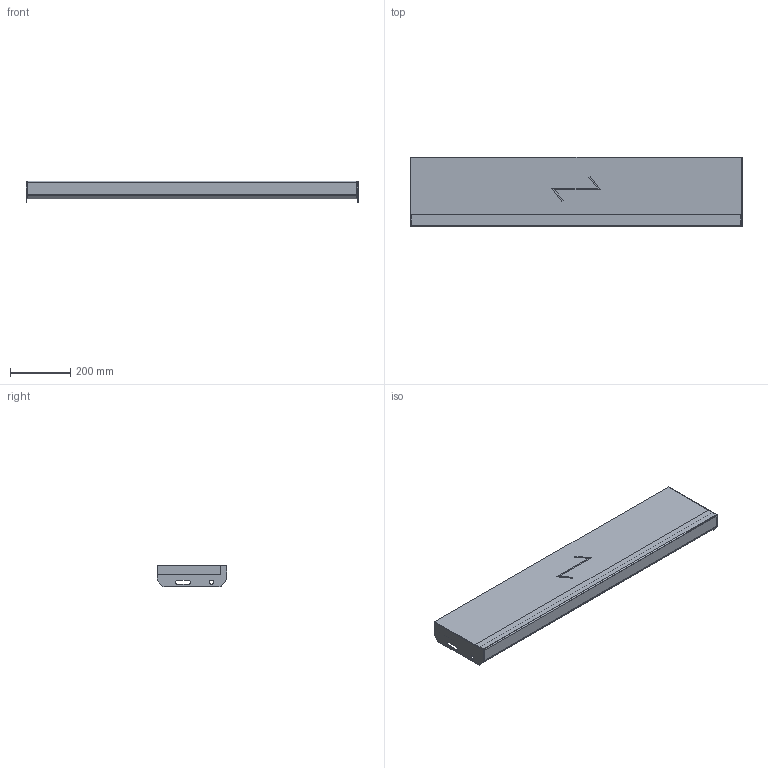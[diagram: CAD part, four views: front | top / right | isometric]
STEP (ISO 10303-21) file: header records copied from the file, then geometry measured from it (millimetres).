
FILE_DESCRIPTION (( 'STEP AP203' ), '1' );
FILE_NAME ('StegTH6-S-nya_steget-1100x230.STEP', '2020-03-04T07:44:54', ( '' ), ( '' ), 'SwSTEP 2.0', 'SolidWorks 2019', '' );
FILE_SCHEMA (( 'CONFIG_CONTROL_DESIGN' ));
Length unit declared in the file: millimetre
Products named in the file (5): SW0000039247; StegTH6-S-nya_steget-1100x230; SW0000039551; SW0000038701; SW0000038939
Assembly tree (5 placements, depth 3):
  StegTH6-S-nya_steget-1100x230
    SW0000039551
      SW0000038939
      SW0000039247
      SW0000038701  x2
Bounding box: 1100 x 230 x 72 mm (x, y, z)
Volume: 7163043.8 mm3; surface area: 818708.2 mm2
Topology: 4 solids, 4 shells, 67 faces, 158 edges, 100 vertices
Faces by surface type: plane 51, cylinder 16
Entity records: 2002 total; most frequent: DIRECTION 261, CARTESIAN_POINT 254, ORIENTED_EDGE 238, EDGE_CURVE 119, VECTOR 99, LINE 99, AXIS2_PLACEMENT_3D 81, VERTEX_POINT 74
